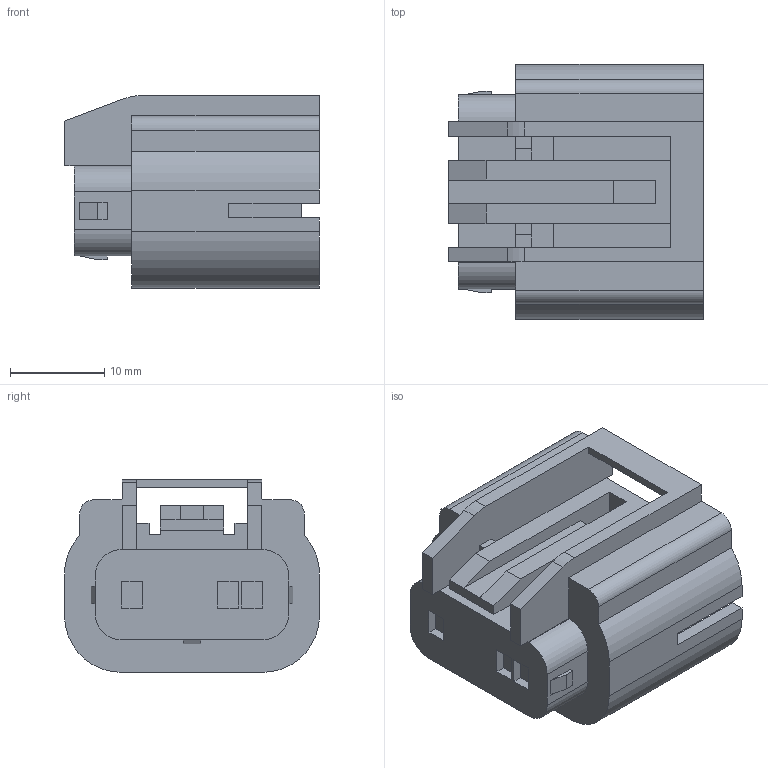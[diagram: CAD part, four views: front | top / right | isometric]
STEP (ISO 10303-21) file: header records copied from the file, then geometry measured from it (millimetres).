
FILE_DESCRIPTION(('CATIA V5 STEP Exchange'),'2;1');
FILE_NAME('N:\C-DAM_MyDesk\ENV\900093\6189-1024.stp','2013-06-13T07:10:49+00:00',('none'),('none'),'CATIA Version 5 Release 20 SP 4 (IN-10)','CATIA V5 STEP AP203','none');
FILE_SCHEMA(('CONFIG_CONTROL_DESIGN'));
Length unit declared in the file: millimetre
Products named in the file (1): 6189-1024
Bounding box: 27 x 27 x 20.4 mm (x, y, z)
Volume: 6612.7 mm3; surface area: 5734.4 mm2
Topology: 1 solids, 1 shells, 163 faces, 444 edges, 294 vertices
Faces by surface type: plane 139, cylinder 24
Entity records: 4855 total; most frequent: ORIENTED_EDGE 888, CARTESIAN_POINT 857, DIRECTION 680, EDGE_CURVE 444, VECTOR 396, LINE 396, VERTEX_POINT 294, EDGE_LOOP 178
